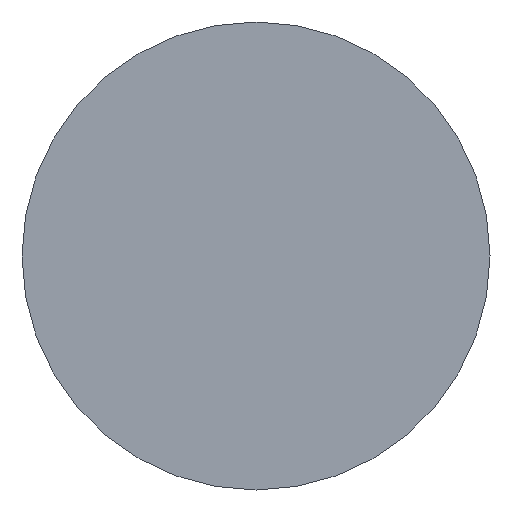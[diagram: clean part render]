
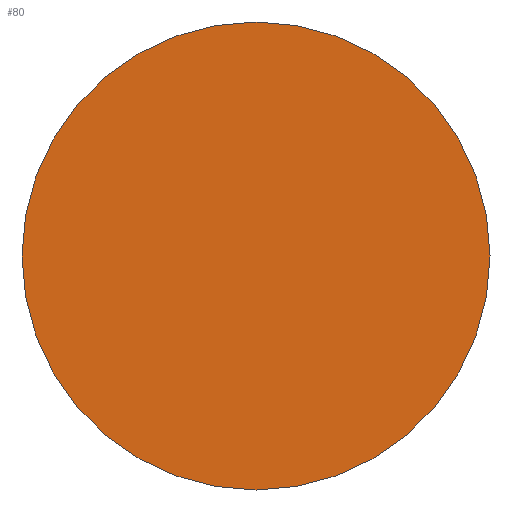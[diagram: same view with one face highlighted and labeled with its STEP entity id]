
A CAD part, front view. The second image highlights one B-rep face of the part: STEP entity #80.
In plain terms, the highlighted planar face has unit normal (0, -1, 0).
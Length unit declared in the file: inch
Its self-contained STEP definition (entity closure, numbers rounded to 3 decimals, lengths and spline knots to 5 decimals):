
#17=PLANE('',#106);
#26=FACE_OUTER_BOUND('',#32,.T.);
#32=EDGE_LOOP('',(#74));
#40=CIRCLE('',#104,0.1675);
#47=VERTEX_POINT('',#177);
#56=EDGE_CURVE('',#47,#47,#40,.T.);
#74=ORIENTED_EDGE('',*,*,#56,.F.);
#80=ADVANCED_FACE('',(#26),#17,.F.);
#104=AXIS2_PLACEMENT_3D('',#179,#128,#129);
#106=AXIS2_PLACEMENT_3D('',#181,#132,#133);
#128=DIRECTION('center_axis',(0.,1.,0.));
#129=DIRECTION('ref_axis',(1.,0.,0.));
#132=DIRECTION('center_axis',(0.,1.,0.));
#133=DIRECTION('ref_axis',(1.,0.,0.));
#177=CARTESIAN_POINT('',(-0.1675,0.,0.));
#179=CARTESIAN_POINT('Origin',(0.,0.,0.));
#181=CARTESIAN_POINT('Origin',(0.,0.,0.));
